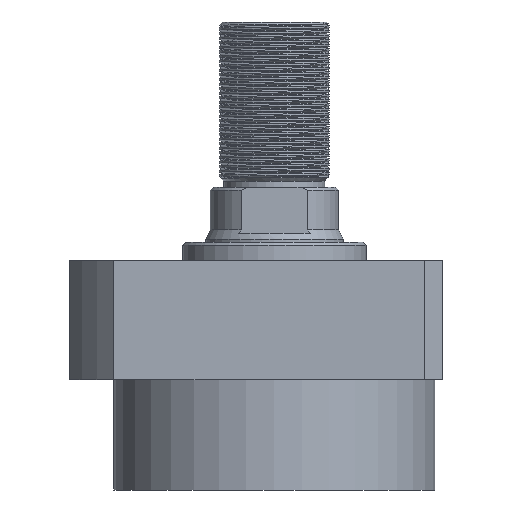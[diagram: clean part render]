
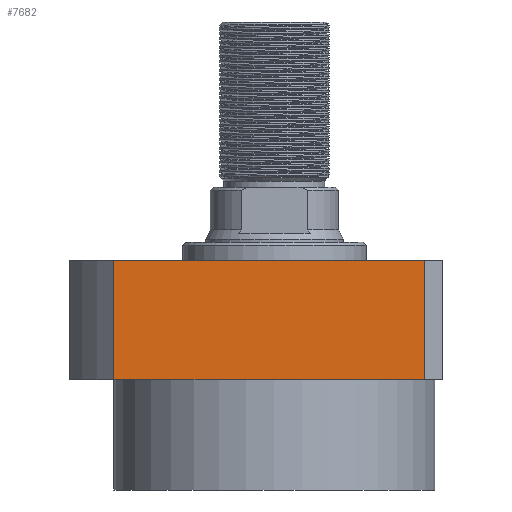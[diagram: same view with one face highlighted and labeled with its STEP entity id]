
A CAD part, front view. The second image highlights one B-rep face of the part: STEP entity #7682.
In plain terms, the highlighted planar face has unit normal (0, -1, 0).
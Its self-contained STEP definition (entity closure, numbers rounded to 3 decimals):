
#37 = DIRECTION ( 'NONE',  ( 0., 0., 1. ) ) ;
#223 = CARTESIAN_POINT ( 'NONE',  ( -52.45, -55., 19.5 ) ) ;
#353 = CARTESIAN_POINT ( 'NONE',  ( 49., -55., -19.5 ) ) ;
#395 = EDGE_CURVE ( 'NONE', #739, #6820, #5730, .T. ) ;
#528 = DIRECTION ( 'NONE',  ( 0., 1., 0. ) ) ;
#739 = VERTEX_POINT ( 'NONE', #7091 ) ;
#1001 = VECTOR ( 'NONE', #2325, 1000. ) ;
#1776 = AXIS2_PLACEMENT_3D ( 'NONE', #4854, #528, #6712 ) ;
#1791 = LINE ( 'NONE', #7528, #6688 ) ;
#1811 = EDGE_CURVE ( 'NONE', #4948, #2148, #1791, .T. ) ;
#1981 = EDGE_CURVE ( 'NONE', #4948, #739, #2692, .T. ) ;
#2148 = VERTEX_POINT ( 'NONE', #5455 ) ;
#2325 = DIRECTION ( 'NONE',  ( 1., 0., 0. ) ) ;
#2531 = ORIENTED_EDGE ( 'NONE', *, *, #7858, .T. ) ;
#2692 = LINE ( 'NONE', #223, #7367 ) ;
#3013 = CARTESIAN_POINT ( 'NONE',  ( 55., -55., -19.5 ) ) ;
#3187 = LINE ( 'NONE', #4376, #6258 ) ;
#3834 = DIRECTION ( 'NONE',  ( 1., 0., 0. ) ) ;
#4376 = CARTESIAN_POINT ( 'NONE',  ( 49., -55., 19.5 ) ) ;
#4663 = ORIENTED_EDGE ( 'NONE', *, *, #1811, .F. ) ;
#4854 = CARTESIAN_POINT ( 'NONE',  ( 55., -55., 19.5 ) ) ;
#4948 = VERTEX_POINT ( 'NONE', #7759 ) ;
#5201 = DIRECTION ( 'NONE',  ( 0., 0., -1. ) ) ;
#5208 = FACE_OUTER_BOUND ( 'NONE', #7104, .T. ) ;
#5455 = CARTESIAN_POINT ( 'NONE',  ( 49., -55., 19.5 ) ) ;
#5730 = LINE ( 'NONE', #3013, #1001 ) ;
#6097 = PLANE ( 'NONE',  #1776 ) ;
#6258 = VECTOR ( 'NONE', #37, 1000. ) ;
#6551 = ORIENTED_EDGE ( 'NONE', *, *, #1981, .T. ) ;
#6688 = VECTOR ( 'NONE', #3834, 1000. ) ;
#6712 = DIRECTION ( 'NONE',  ( -1., 0., 0. ) ) ;
#6820 = VERTEX_POINT ( 'NONE', #353 ) ;
#7091 = CARTESIAN_POINT ( 'NONE',  ( -52.45, -55., -19.5 ) ) ;
#7104 = EDGE_LOOP ( 'NONE', ( #7827, #2531, #4663, #6551 ) ) ;
#7367 = VECTOR ( 'NONE', #5201, 1000. ) ;
#7528 = CARTESIAN_POINT ( 'NONE',  ( 55., -55., 19.5 ) ) ;
#7682 = ADVANCED_FACE ( 'NONE', ( #5208 ), #6097, .F. ) ;
#7759 = CARTESIAN_POINT ( 'NONE',  ( -52.45, -55., 19.5 ) ) ;
#7827 = ORIENTED_EDGE ( 'NONE', *, *, #395, .T. ) ;
#7858 = EDGE_CURVE ( 'NONE', #6820, #2148, #3187, .T. ) ;
